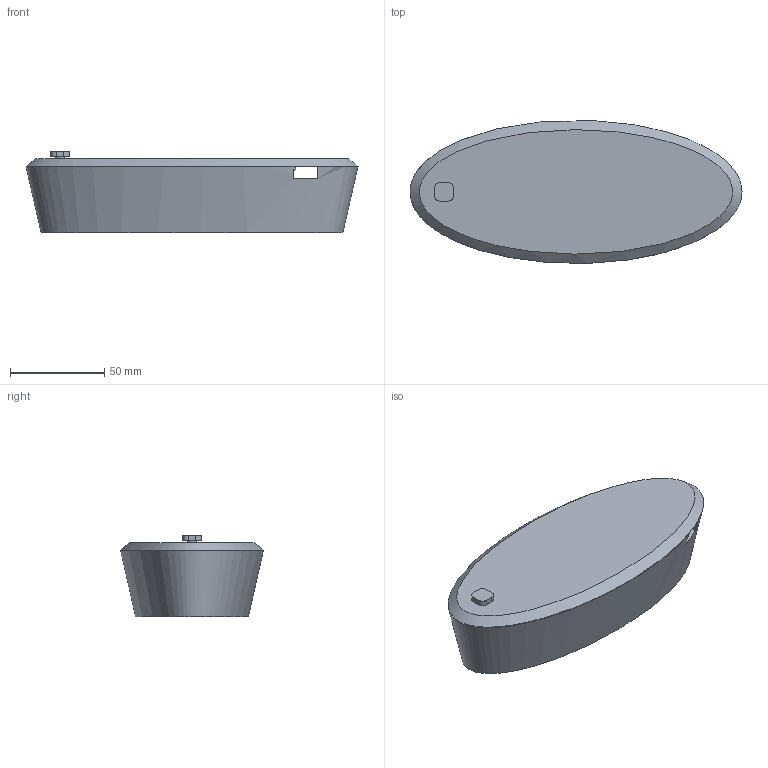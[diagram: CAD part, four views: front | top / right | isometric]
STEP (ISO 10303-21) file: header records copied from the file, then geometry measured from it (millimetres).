
FILE_DESCRIPTION(('Open CASCADE Model'),'2;1');
FILE_NAME('Open CASCADE Shape Model','2026-09-13T15:26:27',('Author'),( 'Open CASCADE'),'Open CASCADE STEP processor 7.9','build123d', 'Unknown');
FILE_SCHEMA(('AUTOMOTIVE_DESIGN { 1 0 10303 214 1 1 1 1 }'));
Length unit declared in the file: millimetre
Products named in the file (6): COMPOUND; SOLID
Assembly tree (5 placements, depth 2):
  COMPOUND
    SOLID
    SOLID
    SOLID
    SOLID
    SOLID
Bounding box: 175.99 x 75.71 x 43.4 mm (x, y, z)
Volume: 123752.4 mm3; surface area: 80345.7 mm2
Topology: 5 solids, 5 shells, 130 faces, 340 edges, 227 vertices
Faces by surface type: plane 84, bspline 35, cylinder 11
Full cylindrical faces by diameter (mm): 4.8 x1, 5.6 x2
Entity records: 11801 total; most frequent: CARTESIAN_POINT 5203, DIRECTION 1080, LINE 724, VECTOR 724, ORIENTED_EDGE 680, PCURVE 680, DEFINITIONAL_REPRESENTATION 680, EDGE_CURVE 340
